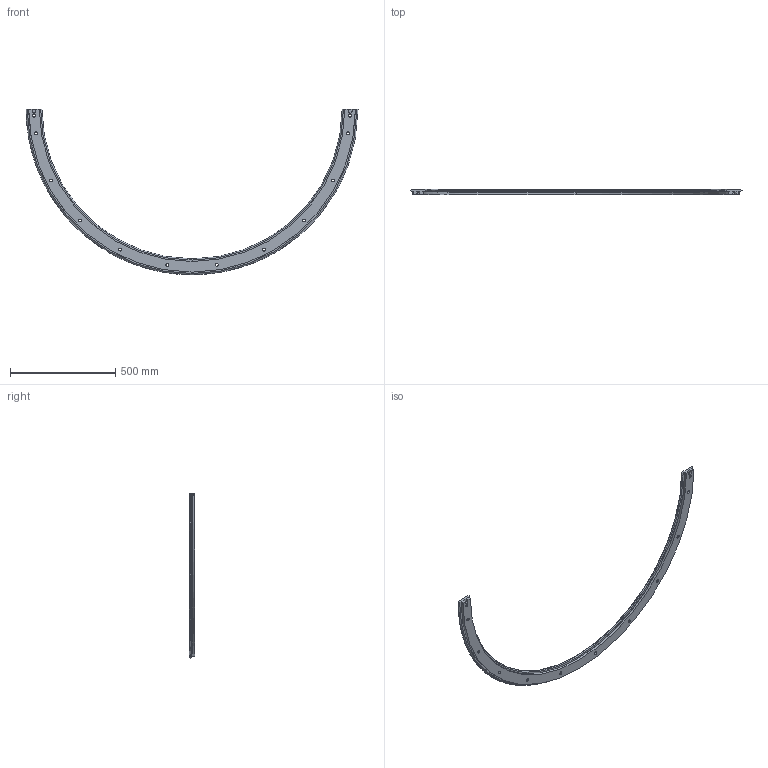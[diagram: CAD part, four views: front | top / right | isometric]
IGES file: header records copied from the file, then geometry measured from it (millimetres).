
Start section: 3D InterOp IGES (v. 2019 1.0.2), Spatial Corp. Copyright (c) 1999-2017.
Global section: file name: TR76 1501 R180.igs; native system: Spatial Corp.; preprocessor: 3D InterOp GENERIC/IGES 3.0; author: Noname; organization: Noname; date: 20220628.092406; units: millimetre
Bounding box: 1576.24 x 24 x 785.8 mm (x, y, z)
Surface area: 493054.5 mm2 (no closed solid volume)
Topology: 0 solids, 0 shells, 138 faces, 692 edges, 692 vertices
Faces by surface type: revolution 80, extrusion 58
